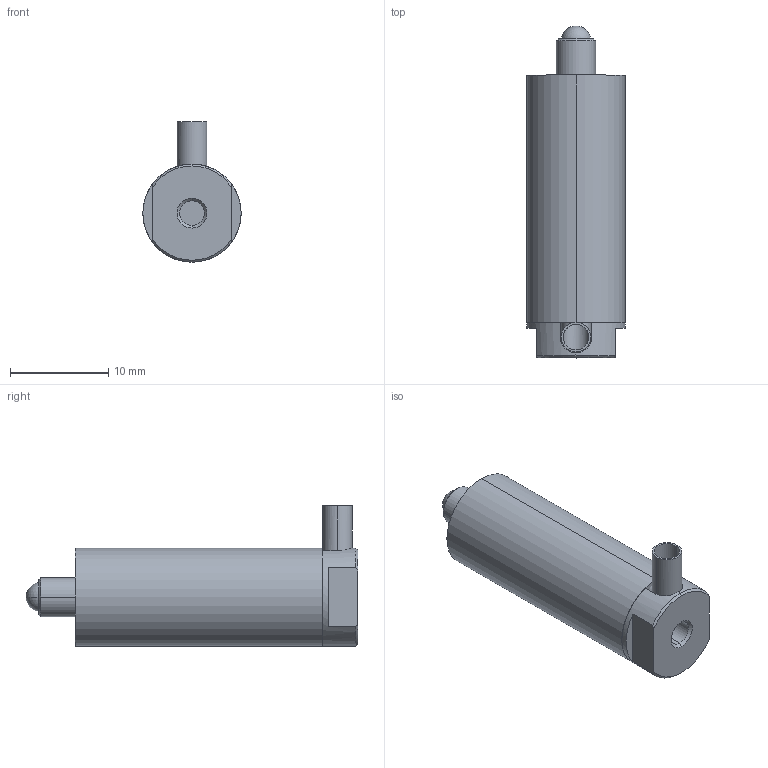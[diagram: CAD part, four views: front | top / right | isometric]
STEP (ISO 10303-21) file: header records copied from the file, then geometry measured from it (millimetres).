
FILE_DESCRIPTION (( 'STEP AP203' ), '1' );
FILE_NAME ('20VS10装配图（球头式）.STEP', '2024-10-25T02:46:26', ( 'daohangxitong.com' ), ( 'daohangxitong.com' ), 'SwSTEP 2.0', 'SolidWorks 2016', '' );
FILE_SCHEMA (( 'CONFIG_CONTROL_DESIGN' ));
Length unit declared in the file: millimetre
Products named in the file (1): 20VS10装配图（球头式）
Bounding box: 10 x 33.8 x 14.3 mm (x, y, z)
Volume: 2263 mm3; surface area: 1769.6 mm2
Topology: 6 solids, 6 shells, 71 faces, 157 edges, 94 vertices
Faces by surface type: cylinder 30, cone 21, plane 18, sphere 2
Entity records: 1986 total; most frequent: CARTESIAN_POINT 361, DIRECTION 351, ORIENTED_EDGE 292, EDGE_CURVE 146, AXIS2_PLACEMENT_3D 143, VERTEX_POINT 91, EDGE_LOOP 81, CIRCLE 71
